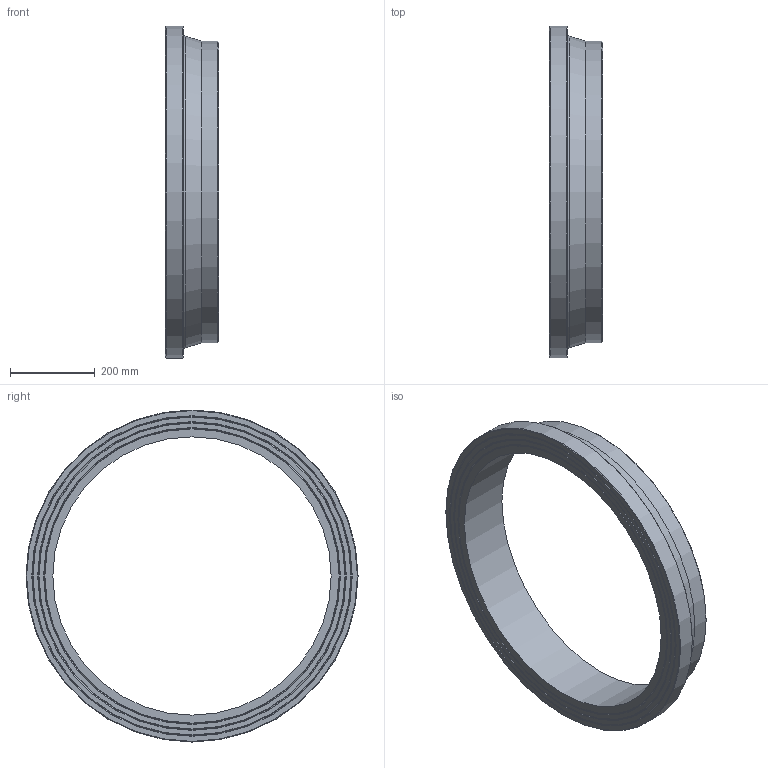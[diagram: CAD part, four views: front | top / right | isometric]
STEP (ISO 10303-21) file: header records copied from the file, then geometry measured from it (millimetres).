
FILE_DESCRIPTION(/* description */ ('Unknown'),/* implementation_level */ '2;1');
FILE_NAME(/* name */ 'CCP710A',/* time_stamp */ '2022-04-05T10:55:51+02:00',/* author */ ('Unknown'),/* organization */ ('Unknown'),/* preprocessor_version */ 'ST-DEVELOPER v18.1',/* originating_system */ 'Solid Edge',/* authorisation */ 'Unknown');
FILE_SCHEMA (('AUTOMOTIVE_DESIGN {1 0 10303 214 3 1 1}'));
Length unit declared in the file: millimetre
Products named in the file (1): CCP710A
Bounding box: 125 x 782 x 782 mm (x, y, z)
Volume: 11483704.8 mm3; surface area: 800642 mm2
Topology: 1 solids, 1 shells, 20 faces, 35 edges, 21 vertices
Faces by surface type: cone 10, plane 6, cylinder 3, torus 1
Full cylindrical faces by diameter (mm): 655.6 x1, 710 x1, 782 x1
Entity records: 438 total; most frequent: DIRECTION 82, CARTESIAN_POINT 61, AXIS2_PLACEMENT_3D 41, ORIENTED_EDGE 40, EDGE_LOOP 40, FACE_BOUND 40, EDGE_CURVE 20, VERTEX_POINT 20
